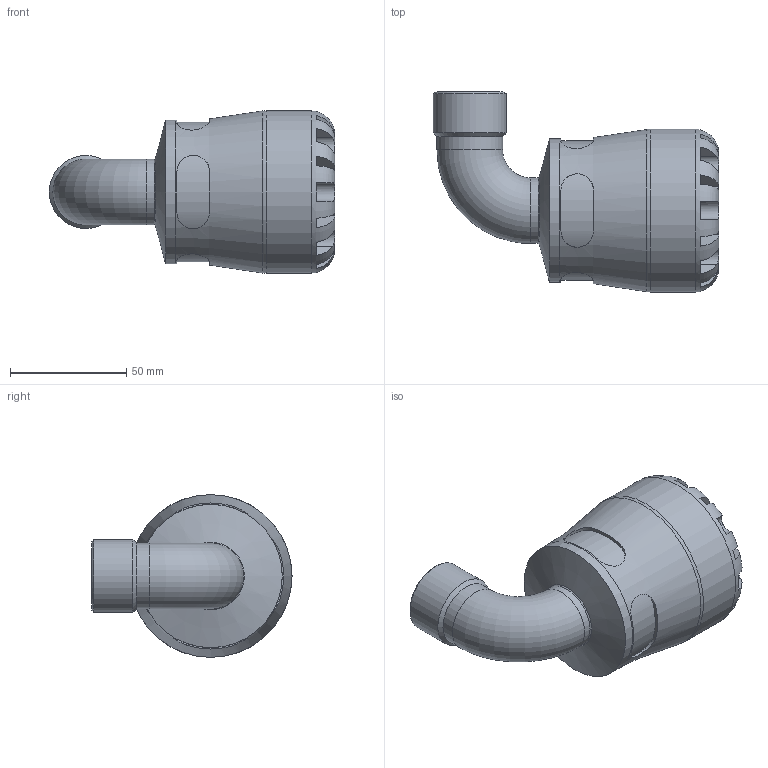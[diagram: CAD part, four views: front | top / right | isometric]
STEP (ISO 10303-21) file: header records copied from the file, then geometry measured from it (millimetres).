
FILE_DESCRIPTION(/* description */ ('PLASSON 90° ELBOW WITH FEMALE INTEGRAL BRASS THREAD 40X3/4" SERIES 1'),/* implementation_level */ '2;1');
FILE_NAME(/* name */ 'C:\Dropbox\KIMPROJECTS-Inventor\99-16-3568-Processing\1076\107600040007_197600040007.ipt.step',/* time_stamp */ '2017-05-18T12:03:30+03:00',/* author */ ('KIM'),/* organization */ (''),/* preprocessor_version */ 'ST-DEVELOPER v15.6',/* originating_system */ 'Autodesk Inventor 2015',/* authorisation */ '');
FILE_SCHEMA (('AUTOMOTIVE_DESIGN { 1 0 10303 214 3 1 1 }'));
Length unit declared in the file: millimetre
Products named in the file (1): 107600040007_197600040007
Bounding box: 122.68 x 86 x 70 mm (x, y, z)
Volume: 177049.4 mm3; surface area: 43383.6 mm2
Topology: 1 solids, 1 shells, 108 faces, 265 edges, 164 vertices
Faces by surface type: plane 60, cylinder 37, torus 6, cone 5
Full cylindrical faces by diameter (mm): 21.705 x2, 24.117 x1, 28.217 x2, 31.352 x1, 40 x1, 61.6 x1, 70 x1
Entity records: 3980 total; most frequent: CARTESIAN_POINT 1455, DIRECTION 488, ORIENTED_EDGE 478, EDGE_CURVE 239, AXIS2_PLACEMENT_3D 204, VERTEX_POINT 159, EDGE_LOOP 136, STYLED_ITEM 109
